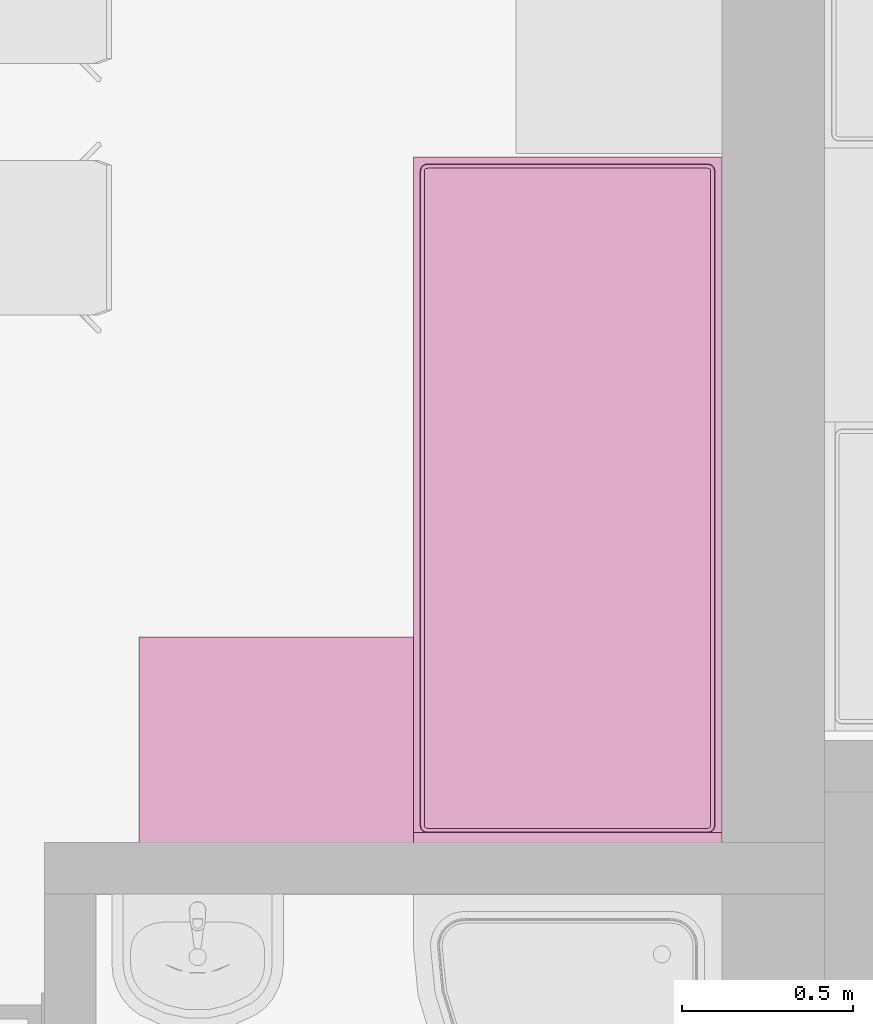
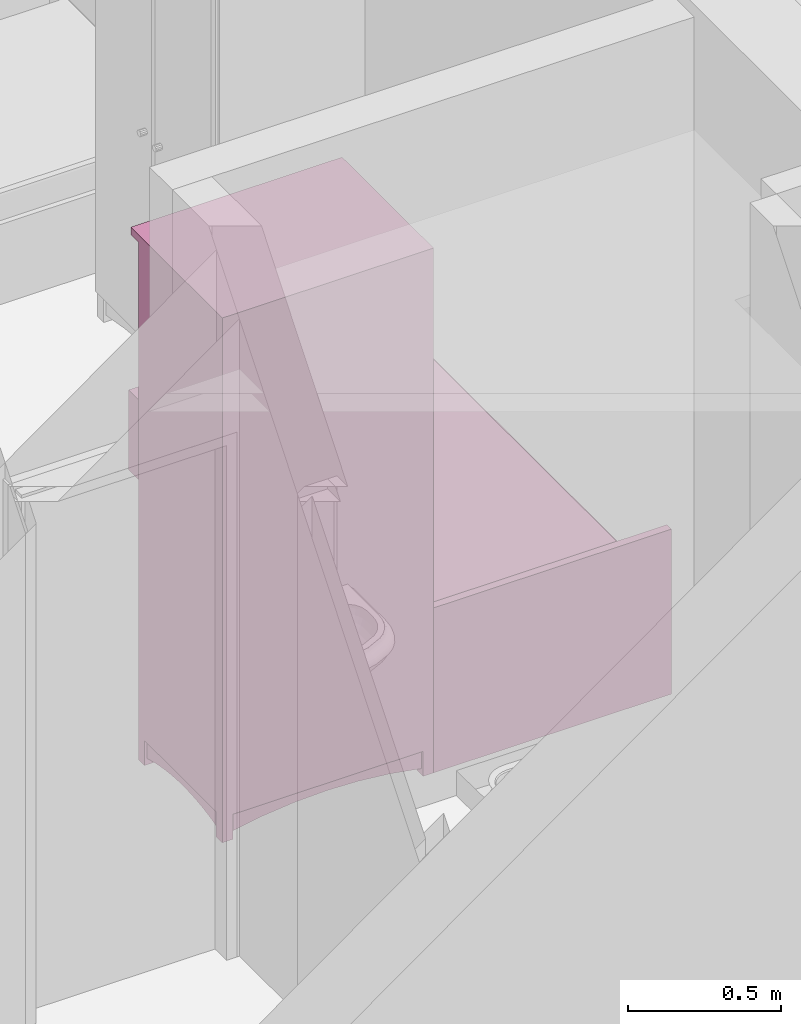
# One storey, part 144 of 165: 2 furnishings.
"""IFC2X3 building model written with IfcOpenShell, lengths in millimetres."""

from ifc_helpers import new_model, entity, si_unit, converted_unit, money_unit, direction, frame, origin_with_axes, place, context, subcontext, project, spatial, faceted_brep, source, transform, mapped, material, material_list, type_object, element, save


model = new_model("IFC2X3")

# Units and contexts
model_context = context("Model", 3, precision=1e-05, world=origin_with_axes(), true_north=direction((0.0, 1.0)))
body_context = subcontext(model_context, "Body", "Model", "MODEL_VIEW")
ifc_project = project(units=[si_unit("LENGTHUNIT", "METRE", prefix="MILLI"), si_unit("AREAUNIT", "SQUARE_METRE"), si_unit("VOLUMEUNIT", "CUBIC_METRE"), converted_unit("PLANEANGLEUNIT", "DEGREE", entity("IfcPlaneAngleMeasure", 0.0174532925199), si_unit("PLANEANGLEUNIT", "RADIAN"), dimensions=[0, 0, 0, 0, 0, 0, 0]), si_unit("SOLIDANGLEUNIT", "STERADIAN"), money_unit("USD"), converted_unit("TIMEUNIT", "Year", entity("IfcTimeMeasure", 31556926.0), si_unit("TIMEUNIT", "SECOND"), dimensions=[0, 0, 0, 0, 0, 0, 0]), si_unit("MASSUNIT", "GRAM"), si_unit("THERMODYNAMICTEMPERATUREUNIT", "DEGREE_CELSIUS"), si_unit("LUMINOUSINTENSITYUNIT", "LUMEN")], contexts=[model_context])

# Site, building, storey
site_placement = place(None, origin_with_axes())
site = spatial("IfcSite", under=ifc_project, at=site_placement, Name="Site", CompositionType="ELEMENT")
building_placement = place(site_placement, origin_with_axes())
building = spatial("IfcBuilding", under=site, at=building_placement, Name="Building", CompositionType="ELEMENT")
storey_placement = place(building_placement, frame((0.0, 0.0, 6300.0), z_axis=(0.0, 0.0, 1.0), x_axis=(1.0, 0.0, 0.0)))
storey = spatial("IfcBuildingStorey", under=building, at=storey_placement, Name="4KORRUS", CompositionType="ELEMENT", Elevation=6300.0)

# Furnishings
ifc_material = material(Name="Background")
ifc_material_list = material_list([ifc_material])
furnishing_element_type_1 = type_object("IfcFurnishingElementType", Name="Cupboard 19")
shared_shape_1 = source(origin_with_axes(), body_context, "Body", "Brep", [
    faceted_brep([(-780.0, 600.0, 120.0), (-780.0, 580.0, 120.0), (-780.0, 580.0, 2050.0), (-780.0, 600.0, 2050.0), (-20.0, 600.0, 120.0), (-20.0, 580.0, 120.0), (-20.0, 580.0, 2050.0), (-20.0, 600.0, 2050.0)], [[[0, 1, 2, 3]], [[0, 4, 5, 1]], [[1, 5, 6, 2]], [[3, 2, 6, 7]], [[4, 0, 3, 7]], [[5, 4, 7, 6]]]),
    faceted_brep([(0.0, 50.0, 100.0), (-20.0, 50.0, 100.0), (-20.0, 600.0, 100.0), (0.0, 600.0, 100.0), (0.0, 50.0, 2070.0), (-20.0, 50.0, 2070.0), (-20.0, 600.0, 2070.0), (0.0, 600.0, 2070.0)], [[[0, 1, 2, 3]], [[1, 0, 4, 5]], [[2, 1, 5, 6]], [[3, 2, 6, 7]], [[0, 3, 7, 4]], [[5, 4, 7, 6]]]),
    faceted_brep([(-780.0, 50.0, 100.0), (-800.0, 50.0, 100.0), (-800.0, 600.0, 100.0), (-780.0, 600.0, 100.0), (-780.0, 50.0, 2070.0), (-800.0, 50.0, 2070.0), (-800.0, 600.0, 2070.0), (-780.0, 600.0, 2070.0)], [[[0, 1, 2, 3]], [[1, 0, 4, 5]], [[2, 1, 5, 6]], [[3, 2, 6, 7]], [[0, 3, 7, 4]], [[5, 4, 7, 6]]]),
    faceted_brep([(-20.0, 50.0, 100.0), (-780.0, 50.0, 100.0), (-780.0, 600.0, 100.0), (-20.0, 600.0, 100.0), (-20.0, 50.0, 120.0), (-780.0, 50.0, 120.0), (-780.0, 600.0, 120.0), (-20.0, 600.0, 120.0)], [[[0, 1, 2, 3]], [[1, 0, 4, 5]], [[2, 1, 5, 6]], [[3, 2, 6, 7]], [[0, 3, 7, 4]], [[5, 4, 7, 6]]]),
    faceted_brep([(-20.0, 50.0, 2050.0), (-780.0, 50.0, 2050.0), (-780.0, 600.0, 2050.0), (-20.0, 600.0, 2050.0), (-20.0, 50.0, 2070.0), (-780.0, 50.0, 2070.0), (-780.0, 600.0, 2070.0), (-20.0, 600.0, 2070.0)], [[[0, 1, 2, 3]], [[1, 0, 4, 5]], [[2, 1, 5, 6]], [[3, 2, 6, 7]], [[0, 3, 7, 4]], [[5, 4, 7, 6]]]),
    faceted_brep([(0.0, 600.0, 2070.0), (0.0, 600.0, 2100.0), (0.0, 0.0, 2100.0), (0.0, 0.0, 2070.0), (-800.0, 600.0, 2070.0), (-800.0, 600.0, 2100.0), (-800.0, 0.0, 2100.0), (-800.0, 0.0, 2070.0)], [[[0, 1, 2, 3]], [[4, 5, 1, 0]], [[1, 5, 6, 2]], [[3, 2, 6, 7]], [[0, 3, 7, 4]], [[7, 6, 5, 4]]]),
    faceted_brep([(-760.0, 590.0, 25.0), (-640.962, 590.0, 45.8), (-640.962, 570.0, 45.8), (-760.0, 570.0, 25.0), (-760.0, 590.0, 100.0), (-40.0, 590.0, 100.0), (-40.0, 590.0, 25.0), (-159.038, 590.0, 45.8), (-279.23, 590.0, 58.32), (-400.0, 590.0, 62.5), (-520.77, 590.0, 58.32), (-520.77, 570.0, 58.32), (-400.0, 570.0, 62.5), (-279.23, 570.0, 58.32), (-159.038, 570.0, 45.8), (-40.0, 570.0, 25.0), (-40.0, 570.0, 100.0), (-760.0, 570.0, 100.0)], [[[0, 1, 2, 3]], [[0, 4, 5, 6, 7, 8, 9, 10, 1]], [[1, 10, 11, 2]], [[3, 2, 11, 12, 13, 14, 15, 16, 17]], [[4, 0, 3, 17]], [[5, 4, 17, 16]], [[6, 5, 16, 15]], [[7, 6, 15, 14]], [[8, 7, 14, 13]], [[9, 8, 13, 12]], [[10, 9, 12, 11]]]),
    faceted_brep([(-760.0, 80.0, 25.0), (-640.962, 80.0, 45.8), (-640.962, 60.0, 45.8), (-760.0, 60.0, 25.0), (-760.0, 80.0, 100.0), (-40.0, 80.0, 100.0), (-40.0, 80.0, 25.0), (-159.038, 80.0, 45.8), (-279.23, 80.0, 58.32), (-400.0, 80.0, 62.5), (-520.77, 80.0, 58.32), (-520.77, 60.0, 58.32), (-400.0, 60.0, 62.5), (-279.23, 60.0, 58.32), (-159.038, 60.0, 45.8), (-40.0, 60.0, 25.0), (-40.0, 60.0, 100.0), (-760.0, 60.0, 100.0)], [[[0, 1, 2, 3]], [[0, 4, 5, 6, 7, 8, 9, 10, 1]], [[1, 10, 11, 2]], [[3, 2, 11, 12, 13, 14, 15, 16, 17]], [[4, 0, 3, 17]], [[5, 4, 17, 16]], [[6, 5, 16, 15]], [[7, 6, 15, 14]], [[8, 7, 14, 13]], [[9, 8, 13, 12]], [[10, 9, 12, 11]]]),
    faceted_brep([(-790.0, 90.0, 25.0), (-790.0, 141.266, 38.072), (-770.0, 141.266, 38.072), (-770.0, 90.0, 25.0), (-790.0, 90.0, 100.0), (-790.0, 560.0, 100.0), (-790.0, 560.0, 25.0), (-790.0, 508.734, 38.072), (-790.0, 456.752, 47.92), (-790.0, 404.257, 54.508), (-790.0, 351.453, 57.808), (-790.0, 298.547, 57.808), (-790.0, 245.743, 54.508), (-790.0, 193.248, 47.92), (-770.0, 193.248, 47.92), (-770.0, 245.743, 54.508), (-770.0, 298.547, 57.808), (-770.0, 351.453, 57.808), (-770.0, 404.257, 54.508), (-770.0, 456.752, 47.92), (-770.0, 508.734, 38.072), (-770.0, 560.0, 25.0), (-770.0, 560.0, 100.0), (-770.0, 90.0, 100.0)], [[[0, 1, 2, 3]], [[0, 4, 5, 6, 7, 8, 9, 10, 11, 12, 13, 1]], [[1, 13, 14, 2]], [[3, 2, 14, 15, 16, 17, 18, 19, 20, 21, 22, 23]], [[4, 0, 3, 23]], [[5, 4, 23, 22]], [[6, 5, 22, 21]], [[7, 6, 21, 20]], [[8, 7, 20, 19]], [[9, 8, 19, 18]], [[10, 9, 18, 17]], [[11, 10, 17, 16]], [[12, 11, 16, 15]], [[13, 12, 15, 14]]]),
    faceted_brep([(-30.0, 90.0, 25.0), (-30.0, 141.266, 38.072), (-10.0, 141.266, 38.072), (-10.0, 90.0, 25.0), (-30.0, 90.0, 100.0), (-30.0, 560.0, 100.0), (-30.0, 560.0, 25.0), (-30.0, 508.734, 38.072), (-30.0, 456.752, 47.92), (-30.0, 404.257, 54.508), (-30.0, 351.453, 57.808), (-30.0, 298.547, 57.808), (-30.0, 245.743, 54.508), (-30.0, 193.248, 47.92), (-10.0, 193.248, 47.92), (-10.0, 245.743, 54.508), (-10.0, 298.547, 57.808), (-10.0, 351.453, 57.808), (-10.0, 404.257, 54.508), (-10.0, 456.752, 47.92), (-10.0, 508.734, 38.072), (-10.0, 560.0, 25.0), (-10.0, 560.0, 100.0), (-10.0, 90.0, 100.0)], [[[0, 1, 2, 3]], [[0, 4, 5, 6, 7, 8, 9, 10, 11, 12, 13, 1]], [[1, 13, 14, 2]], [[3, 2, 14, 15, 16, 17, 18, 19, 20, 21, 22, 23]], [[4, 0, 3, 23]], [[5, 4, 23, 22]], [[6, 5, 22, 21]], [[7, 6, 21, 20]], [[8, 7, 20, 19]], [[9, 8, 19, 18]], [[10, 9, 18, 17]], [[11, 10, 17, 16]], [[12, 11, 16, 15]], [[13, 12, 15, 14]]]),
    faceted_brep([(-760.0, 560.0, 0.0), (-760.0, 600.0, 0.0), (-760.0, 600.0, 100.0), (-760.0, 560.0, 100.0), (-800.0, 560.0, 0.0), (-800.0, 600.0, 0.0), (-800.0, 600.0, 100.0), (-800.0, 560.0, 100.0)], [[[0, 1, 2, 3]], [[0, 4, 5, 1]], [[1, 5, 6, 2]], [[3, 2, 6, 7]], [[4, 0, 3, 7]], [[5, 4, 7, 6]]]),
    faceted_brep([(0.0, 560.0, 0.0), (0.0, 600.0, 0.0), (0.0, 600.0, 100.0), (0.0, 560.0, 100.0), (-40.0, 560.0, 0.0), (-40.0, 600.0, 0.0), (-40.0, 600.0, 100.0), (-40.0, 560.0, 100.0)], [[[0, 1, 2, 3]], [[0, 4, 5, 1]], [[1, 5, 6, 2]], [[3, 2, 6, 7]], [[4, 0, 3, 7]], [[5, 4, 7, 6]]]),
    faceted_brep([(-760.0, 50.0, 0.0), (-760.0, 90.0, 0.0), (-760.0, 90.0, 100.0), (-760.0, 50.0, 100.0), (-800.0, 50.0, 0.0), (-800.0, 90.0, 0.0), (-800.0, 90.0, 100.0), (-800.0, 50.0, 100.0)], [[[0, 1, 2, 3]], [[0, 4, 5, 1]], [[1, 5, 6, 2]], [[3, 2, 6, 7]], [[4, 0, 3, 7]], [[5, 4, 7, 6]]]),
    faceted_brep([(0.0, 50.0, 0.0), (0.0, 90.0, 0.0), (0.0, 90.0, 100.0), (0.0, 50.0, 100.0), (-40.0, 50.0, 0.0), (-40.0, 90.0, 0.0), (-40.0, 90.0, 100.0), (-40.0, 50.0, 100.0)], [[[0, 1, 2, 3]], [[0, 4, 5, 1]], [[1, 5, 6, 2]], [[3, 2, 6, 7]], [[4, 0, 3, 7]], [[5, 4, 7, 6]]]),
    faceted_brep([(-780.0, 580.0, 587.5), (-780.0, 50.0, 587.5), (-780.0, 50.0, 607.5), (-780.0, 580.0, 607.5), (-20.0, 580.0, 587.5), (-20.0, 50.0, 587.5), (-20.0, 50.0, 607.5), (-20.0, 580.0, 607.5)], [[[0, 1, 2, 3]], [[0, 4, 5, 1]], [[1, 5, 6, 2]], [[3, 2, 6, 7]], [[4, 0, 3, 7]], [[5, 4, 7, 6]]]),
    faceted_brep([(-780.0, 580.0, 1075.0), (-780.0, 50.0, 1075.0), (-780.0, 50.0, 1095.0), (-780.0, 580.0, 1095.0), (-20.0, 580.0, 1075.0), (-20.0, 50.0, 1075.0), (-20.0, 50.0, 1095.0), (-20.0, 580.0, 1095.0)], [[[0, 1, 2, 3]], [[0, 4, 5, 1]], [[1, 5, 6, 2]], [[3, 2, 6, 7]], [[4, 0, 3, 7]], [[5, 4, 7, 6]]]),
    faceted_brep([(-780.0, 580.0, 1562.5), (-780.0, 50.0, 1562.5), (-780.0, 50.0, 1582.5), (-780.0, 580.0, 1582.5), (-20.0, 580.0, 1562.5), (-20.0, 50.0, 1562.5), (-20.0, 50.0, 1582.5), (-20.0, 580.0, 1582.5)], [[[0, 1, 2, 3]], [[0, 4, 5, 1]], [[1, 5, 6, 2]], [[3, 2, 6, 7]], [[4, 0, 3, 7]], [[5, 4, 7, 6]]]),
    faceted_brep([(-789.5, 50.0, 110.5), (-789.5, 50.0, 2059.5), (-400.5, 50.0, 2059.5), (-400.5, 50.0, 110.5), (-789.5, 40.0, 110.5), (-789.5, 40.0, 2059.5), (-400.5, 40.0, 2059.5), (-400.5, 40.0, 110.5), (-779.5, 30.0, 120.5), (-779.5, 30.0, 2049.5), (-410.5, 30.0, 2049.5), (-410.5, 30.0, 120.5)], [[[0, 1, 2, 3]], [[1, 0, 4, 5]], [[2, 1, 5, 6]], [[3, 2, 6, 7]], [[0, 3, 7, 4]], [[5, 4, 8, 9]], [[6, 5, 9, 10]], [[7, 6, 10, 11]], [[4, 7, 11, 8]], [[10, 9, 8, 11]]]),
    faceted_brep([(-399.5, 50.0, 110.5), (-399.5, 50.0, 2059.5), (-10.5, 50.0, 2059.5), (-10.5, 50.0, 110.5), (-399.5, 40.0, 110.5), (-399.5, 40.0, 2059.5), (-10.5, 40.0, 2059.5), (-10.5, 40.0, 110.5), (-389.5, 30.0, 120.5), (-389.5, 30.0, 2049.5), (-20.5, 30.0, 2049.5), (-20.5, 30.0, 120.5)], [[[0, 1, 2, 3]], [[1, 0, 4, 5]], [[2, 1, 5, 6]], [[3, 2, 6, 7]], [[0, 3, 7, 4]], [[5, 4, 8, 9]], [[6, 5, 9, 10]], [[7, 6, 10, 11]], [[4, 7, 11, 8]], [[10, 9, 8, 11]]]),
    faceted_brep([(-339.608, 30.0, 954.0), (-344.0, 30.0, 949.608), (-350.0, 30.0, 948.0), (-356.0, 30.0, 949.608), (-360.392, 30.0, 954.0), (-362.0, 30.0, 960.0), (-360.392, 30.0, 966.0), (-356.0, 30.0, 970.392), (-350.0, 30.0, 972.0), (-344.0, 30.0, 970.392), (-339.608, 30.0, 966.0), (-338.0, 30.0, 960.0), (-339.608, 5.0, 954.0), (-344.0, 5.0, 949.608), (-350.0, 5.0, 948.0), (-356.0, 5.0, 949.608), (-360.392, 5.0, 954.0), (-362.0, 5.0, 960.0), (-360.392, 5.0, 966.0), (-356.0, 5.0, 970.392), (-350.0, 5.0, 972.0), (-344.0, 5.0, 970.392), (-339.608, 5.0, 966.0), (-338.0, 5.0, 960.0)], [[[0, 1, 2, 3, 4, 5, 6, 7, 8, 9, 10, 11]], [[1, 0, 12, 13]], [[2, 1, 13, 14]], [[3, 2, 14, 15]], [[4, 3, 15, 16]], [[5, 4, 16, 17]], [[6, 5, 17, 18]], [[7, 6, 18, 19]], [[8, 7, 19, 20]], [[9, 8, 20, 21]], [[10, 9, 21, 22]], [[11, 10, 22, 23]], [[0, 11, 23, 12]], [[12, 23, 22, 21, 20, 19, 18, 17, 16, 15, 14, 13]]]),
    faceted_brep([(-460.392, 30.0, 954.0), (-462.0, 30.0, 960.0), (-460.392, 30.0, 966.0), (-456.0, 30.0, 970.392), (-450.0, 30.0, 972.0), (-444.0, 30.0, 970.392), (-439.608, 30.0, 966.0), (-438.0, 30.0, 960.0), (-439.608, 30.0, 954.0), (-444.0, 30.0, 949.608), (-450.0, 30.0, 948.0), (-456.0, 30.0, 949.608), (-460.392, 5.0, 954.0), (-462.0, 5.0, 960.0), (-460.392, 5.0, 966.0), (-456.0, 5.0, 970.392), (-450.0, 5.0, 972.0), (-444.0, 5.0, 970.392), (-439.608, 5.0, 966.0), (-438.0, 5.0, 960.0), (-439.608, 5.0, 954.0), (-444.0, 5.0, 949.608), (-450.0, 5.0, 948.0), (-456.0, 5.0, 949.608)], [[[0, 1, 2, 3, 4, 5, 6, 7, 8, 9, 10, 11]], [[0, 12, 13, 1]], [[1, 13, 14, 2]], [[2, 14, 15, 3]], [[3, 15, 16, 4]], [[4, 16, 17, 5]], [[5, 17, 18, 6]], [[6, 18, 19, 7]], [[7, 19, 20, 8]], [[8, 20, 21, 9]], [[9, 21, 22, 10]], [[10, 22, 23, 11]], [[11, 23, 12, 0]], [[12, 23, 22, 21, 20, 19, 18, 17, 16, 15, 14, 13]]]),
])
furnishing_1_placement = place(storey_placement, frame((10009.7032967, -8617.37850445, 0.0), z_axis=(0.0, 0.0, 1.0), x_axis=(-1.0, 0.0, 0.0)))
element("IfcFurnishingElement", 1, at=furnishing_1_placement, inside=storey, type_object=furnishing_element_type_1, material=ifc_material_list, Name="FU - 014", context=body_context, shape_type="MappedRepresentation", body=[
    mapped(shared_shape_1, transform((0.0, 0.0, 0.0))),
])
furnishing_element_type_2 = type_object("IfcFurnishingElementType", Name="Bed 19")
shared_shape_2 = source(origin_with_axes(), body_context, "Body", "Brep", [
    faceted_brep([(-900.0, 1970.0, 0.0), (-900.0, 2000.0, 0.0), (0.0, 2000.0, 0.0), (0.0, 1970.0, 0.0), (-900.0, 1970.0, 660.0), (-900.0, 2000.0, 660.0), (0.0, 2000.0, 660.0), (0.0, 1970.0, 660.0)], [[[0, 1, 2, 3]], [[0, 4, 5, 1]], [[1, 5, 6, 2]], [[2, 6, 7, 3]], [[3, 7, 4, 0]], [[7, 6, 5, 4]]]),
    faceted_brep([(-900.0, 0.0, 0.0), (-900.0, 1970.0, 0.0), (0.0, 1970.0, 0.0), (0.0, 0.0, 0.0), (-900.0, 0.0, 320.0), (-900.0, 1970.0, 320.0), (0.0, 1970.0, 320.0), (0.0, 0.0, 320.0)], [[[0, 1, 2, 3]], [[0, 4, 5, 1]], [[1, 5, 6, 2]], [[2, 6, 7, 3]], [[3, 7, 4, 0]], [[7, 6, 5, 4]]]),
    faceted_brep([(-905.0, 10.0, 30.0), (-905.0, 695.0, 30.0), (-900.0, 695.0, 30.0), (-900.0, 10.0, 30.0), (-905.0, 10.0, 290.0), (-905.0, 695.0, 290.0), (-900.0, 695.0, 290.0), (-900.0, 10.0, 290.0)], [[[0, 1, 2, 3]], [[0, 4, 5, 1]], [[1, 5, 6, 2]], [[2, 6, 7, 3]], [[3, 7, 4, 0]], [[7, 6, 5, 4]]]),
    faceted_brep([(-935.0, 307.5, 150.0), (-935.0, 397.5, 150.0), (-905.0, 397.5, 150.0), (-905.0, 307.5, 150.0), (-935.0, 307.5, 170.0), (-935.0, 397.5, 170.0), (-905.0, 397.5, 170.0), (-905.0, 307.5, 170.0)], [[[0, 1, 2, 3]], [[0, 4, 5, 1]], [[1, 5, 6, 2]], [[2, 6, 7, 3]], [[3, 7, 4, 0]], [[7, 6, 5, 4]]]),
    faceted_brep([(-905.0, 705.0, 30.0), (-905.0, 1390.0, 30.0), (-900.0, 1390.0, 30.0), (-900.0, 705.0, 30.0), (-905.0, 705.0, 290.0), (-905.0, 1390.0, 290.0), (-900.0, 1390.0, 290.0), (-900.0, 705.0, 290.0)], [[[0, 1, 2, 3]], [[0, 4, 5, 1]], [[1, 5, 6, 2]], [[2, 6, 7, 3]], [[3, 7, 4, 0]], [[7, 6, 5, 4]]]),
    faceted_brep([(-935.0, 1002.5, 150.0), (-935.0, 1092.5, 150.0), (-905.0, 1092.5, 150.0), (-905.0, 1002.5, 150.0), (-935.0, 1002.5, 170.0), (-935.0, 1092.5, 170.0), (-905.0, 1092.5, 170.0), (-905.0, 1002.5, 170.0)], [[[0, 1, 2, 3]], [[0, 4, 5, 1]], [[1, 5, 6, 2]], [[2, 6, 7, 3]], [[3, 7, 4, 0]], [[7, 6, 5, 4]]]),
    faceted_brep([(-20.0, 40.0, 350.0), (-21.522, 32.346, 350.0), (-25.858, 25.858, 350.0), (-32.346, 21.522, 350.0), (-40.0, 20.0, 350.0), (-860.0, 20.0, 350.0), (-867.654, 21.522, 350.0), (-874.142, 25.858, 350.0), (-878.478, 32.346, 350.0), (-880.0, 40.0, 350.0), (-880.0, 1950.0, 350.0), (-878.478, 1957.654, 350.0), (-874.142, 1964.142, 350.0), (-867.654, 1968.478, 350.0), (-860.0, 1970.0, 350.0), (-40.0, 1970.0, 350.0), (-32.346, 1968.478, 350.0), (-25.858, 1964.142, 350.0), (-21.522, 1957.654, 350.0), (-20.0, 1950.0, 350.0), (-20.0, 40.0, 420.0), (-21.522, 32.346, 420.0), (-25.858, 25.858, 420.0), (-32.346, 21.522, 420.0), (-40.0, 20.0, 420.0), (-860.0, 20.0, 420.0), (-867.654, 21.522, 420.0), (-874.142, 25.858, 420.0), (-878.478, 32.346, 420.0), (-880.0, 40.0, 420.0), (-880.0, 1950.0, 420.0), (-878.478, 1957.654, 420.0), (-874.142, 1964.142, 420.0), (-867.654, 1968.478, 420.0), (-860.0, 1970.0, 420.0), (-40.0, 1970.0, 420.0), (-32.346, 1968.478, 420.0), (-25.858, 1964.142, 420.0), (-21.522, 1957.654, 420.0), (-20.0, 1950.0, 420.0), (-21.522, 40.15, 427.654), (-22.956, 32.94, 427.654), (-26.955, 26.955, 427.654), (-32.94, 22.956, 427.654), (-40.15, 21.522, 427.654), (-859.85, 21.522, 427.654), (-867.06, 22.956, 427.654), (-873.045, 26.955, 427.654), (-877.044, 32.94, 427.654), (-878.478, 40.15, 427.654), (-878.478, 1949.85, 427.654), (-877.044, 1957.06, 427.654), (-873.045, 1963.045, 427.654), (-867.06, 1967.044, 427.654), (-859.85, 1968.478, 427.654), (-40.15, 1968.478, 427.654), (-32.94, 1967.044, 427.654), (-26.955, 1963.045, 427.654), (-22.956, 1957.06, 427.654), (-21.522, 1949.85, 427.654), (-32.346, 41.216, 438.478), (-33.152, 37.164, 438.478), (-34.759, 34.759, 438.478), (-37.164, 33.152, 438.478), (-41.216, 32.346, 438.478), (-858.784, 32.346, 438.478), (-862.836, 33.152, 438.478), (-865.241, 34.759, 438.478), (-866.848, 37.164, 438.478), (-867.654, 41.216, 438.478), (-867.654, 1948.784, 438.478), (-866.848, 1952.836, 438.478), (-865.241, 1955.241, 438.478), (-862.836, 1956.848, 438.478), (-858.784, 1957.654, 438.478), (-41.216, 1957.654, 438.478), (-37.164, 1956.848, 438.478), (-34.759, 1955.241, 438.478), (-33.152, 1952.836, 438.478), (-32.346, 1948.784, 438.478), (-40.0, 41.97, 440.0), (-40.327, 40.327, 440.0), (-40.0, 40.0, 439.924), (-41.97, 40.0, 440.0), (-858.03, 40.0, 440.0), (-859.673, 40.327, 440.0), (-860.0, 40.0, 439.924), (-860.0, 41.97, 440.0), (-860.0, 1948.03, 440.0), (-859.673, 1949.673, 440.0), (-860.0, 1950.0, 439.924), (-858.03, 1950.0, 440.0), (-41.97, 1950.0, 440.0), (-40.327, 1949.673, 440.0), (-40.0, 1950.0, 439.924), (-40.0, 1948.03, 440.0)], [[[0, 1, 2, 3, 4, 5, 6, 7, 8, 9, 10, 11, 12, 13, 14, 15, 16, 17, 18, 19]], [[0, 20, 21, 1]], [[1, 21, 22, 2]], [[2, 22, 23, 3]], [[3, 23, 24, 4]], [[4, 24, 25, 5]], [[5, 25, 26, 6]], [[6, 26, 27, 7]], [[7, 27, 28, 8]], [[8, 28, 29, 9]], [[9, 29, 30, 10]], [[10, 30, 31, 11]], [[11, 31, 32, 12]], [[12, 32, 33, 13]], [[13, 33, 34, 14]], [[14, 34, 35, 15]], [[15, 35, 36, 16]], [[16, 36, 37, 17]], [[17, 37, 38, 18]], [[18, 38, 39, 19]], [[19, 39, 20, 0]], [[20, 40, 41, 21]], [[21, 41, 42, 22]], [[22, 42, 43, 23]], [[23, 43, 44, 24]], [[24, 44, 45, 25]], [[25, 45, 46, 26]], [[26, 46, 47, 27]], [[27, 47, 48, 28]], [[28, 48, 49, 29]], [[29, 49, 50, 30]], [[30, 50, 51, 31]], [[31, 51, 52, 32]], [[32, 52, 53, 33]], [[33, 53, 54, 34]], [[34, 54, 55, 35]], [[35, 55, 56, 36]], [[36, 56, 57, 37]], [[37, 57, 58, 38]], [[38, 58, 59, 39]], [[39, 59, 40, 20]], [[40, 60, 61, 41]], [[41, 61, 62, 42]], [[42, 62, 63, 43]], [[43, 63, 64, 44]], [[44, 64, 65, 45]], [[45, 65, 66, 46]], [[46, 66, 67, 47]], [[47, 67, 68, 48]], [[48, 68, 69, 49]], [[49, 69, 70, 50]], [[50, 70, 71, 51]], [[51, 71, 72, 52]], [[52, 72, 73, 53]], [[53, 73, 74, 54]], [[54, 74, 75, 55]], [[55, 75, 76, 56]], [[56, 76, 77, 57]], [[57, 77, 78, 58]], [[58, 78, 79, 59]], [[59, 79, 60, 40]], [[60, 80, 81, 82, 61]], [[61, 82, 62]], [[62, 82, 63]], [[63, 82, 81, 83, 64]], [[64, 83, 84, 65]], [[65, 84, 85, 86, 66]], [[66, 86, 67]], [[67, 86, 68]], [[68, 86, 85, 87, 69]], [[69, 87, 88, 70]], [[70, 88, 89, 90, 71]], [[71, 90, 72]], [[72, 90, 73]], [[73, 90, 89, 91, 74]], [[74, 91, 92, 75]], [[75, 92, 93, 94, 76]], [[76, 94, 77]], [[77, 94, 78]], [[78, 94, 93, 95, 79]], [[79, 95, 80, 60]], [[95, 93, 92, 91, 89, 88, 87, 85, 84, 83, 81, 80]]]),
    faceted_brep([(-20.0, 40.0, 350.0), (-20.0, 1950.0, 350.0), (-21.522, 1957.654, 350.0), (-25.858, 1964.142, 350.0), (-32.346, 1968.478, 350.0), (-40.0, 1970.0, 350.0), (-860.0, 1970.0, 350.0), (-867.654, 1968.478, 350.0), (-874.142, 1964.142, 350.0), (-878.478, 1957.654, 350.0), (-880.0, 1950.0, 350.0), (-880.0, 40.0, 350.0), (-878.478, 32.346, 350.0), (-874.142, 25.858, 350.0), (-867.654, 21.522, 350.0), (-860.0, 20.0, 350.0), (-40.0, 20.0, 350.0), (-32.346, 21.522, 350.0), (-25.858, 25.858, 350.0), (-21.522, 32.346, 350.0), (-20.0, 40.0, 320.0), (-20.0, 1950.0, 320.0), (-21.522, 1957.654, 320.0), (-25.858, 1964.142, 320.0), (-32.346, 1968.478, 320.0), (-40.0, 1970.0, 320.0), (-860.0, 1970.0, 320.0), (-867.654, 1968.478, 320.0), (-874.142, 1964.142, 320.0), (-878.478, 1957.654, 320.0), (-880.0, 1950.0, 320.0), (-880.0, 40.0, 320.0), (-878.478, 32.346, 320.0), (-874.142, 25.858, 320.0), (-867.654, 21.522, 320.0), (-860.0, 20.0, 320.0), (-40.0, 20.0, 320.0), (-32.346, 21.522, 320.0), (-25.858, 25.858, 320.0), (-21.522, 32.346, 320.0)], [[[0, 1, 2, 3, 4, 5, 6, 7, 8, 9, 10, 11, 12, 13, 14, 15, 16, 17, 18, 19]], [[1, 0, 20, 21]], [[2, 1, 21, 22]], [[3, 2, 22, 23]], [[4, 3, 23, 24]], [[5, 4, 24, 25]], [[6, 5, 25, 26]], [[7, 6, 26, 27]], [[8, 7, 27, 28]], [[9, 8, 28, 29]], [[10, 9, 29, 30]], [[11, 10, 30, 31]], [[12, 11, 31, 32]], [[13, 12, 32, 33]], [[14, 13, 33, 34]], [[15, 14, 34, 35]], [[16, 15, 35, 36]], [[17, 16, 36, 37]], [[18, 17, 37, 38]], [[19, 18, 38, 39]], [[0, 19, 39, 20]], [[20, 39, 38, 37, 36, 35, 34, 33, 32, 31, 30, 29, 28, 27, 26, 25, 24, 23, 22, 21]]]),
])
furnishing_2_placement = place(storey_placement, frame((10809.7032967, -7217.37850445, 0.0), z_axis=(0.0, 0.0, 1.0), x_axis=(-1.0, 0.0, 0.0)))
element("IfcFurnishingElement", 2, at=furnishing_2_placement, inside=storey, type_object=furnishing_element_type_2, material=ifc_material_list, Name="FU - 013", context=body_context, shape_type="MappedRepresentation", body=[
    mapped(shared_shape_2, transform((0.0, 0.0, 0.0))),
])

save(model, "model.ifc")
